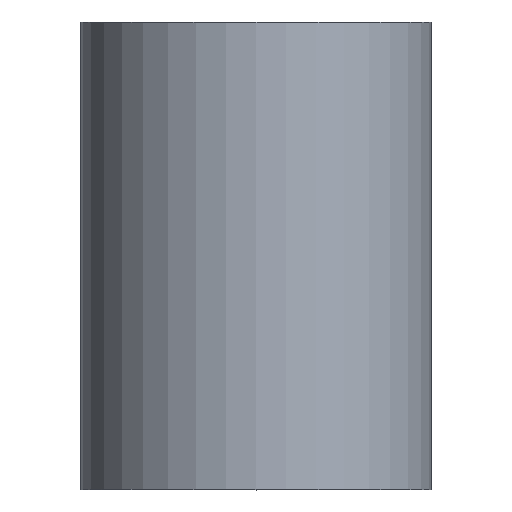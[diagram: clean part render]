
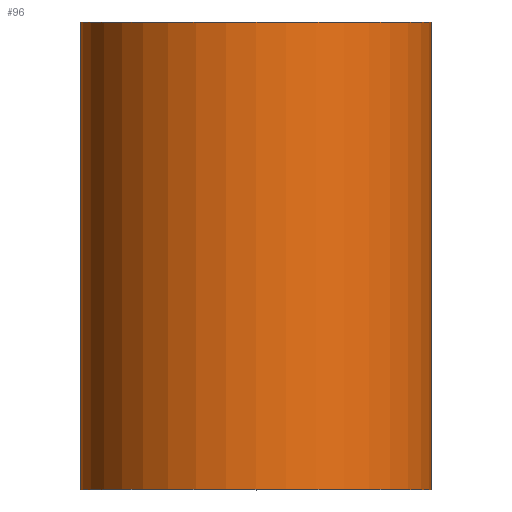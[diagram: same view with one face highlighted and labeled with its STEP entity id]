
A CAD part, top view. The second image highlights one B-rep face of the part: STEP entity #96.
In plain terms, the highlighted cylindrical face has radius 3 mm (diameter 6 mm), a partial arc.
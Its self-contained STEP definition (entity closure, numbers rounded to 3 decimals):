
#2 = LINE ( 'NONE', #107, #35 ) ;
#5 = DIRECTION ( 'NONE',  ( 0., 1., 0. ) ) ;
#8 = DIRECTION ( 'NONE',  ( 0., 1., 0. ) ) ;
#9 = DIRECTION ( 'NONE',  ( 0., 1., 0. ) ) ;
#19 = VERTEX_POINT ( 'NONE', #100 ) ;
#26 = DIRECTION ( 'NONE',  ( 0., 1., 0. ) ) ;
#28 = DIRECTION ( 'NONE',  ( -1., 0., 0. ) ) ;
#35 = VECTOR ( 'NONE', #26, 1000. ) ;
#41 = VECTOR ( 'NONE', #160, 1000. ) ;
#43 = EDGE_CURVE ( 'NONE', #296, #19, #2, .T. ) ;
#51 = CIRCLE ( 'NONE', #141, 3. ) ;
#55 = CARTESIAN_POINT ( 'NONE',  ( 3., 0., 0. ) ) ;
#62 = ORIENTED_EDGE ( 'NONE', *, *, #295, .F. ) ;
#76 = ORIENTED_EDGE ( 'NONE', *, *, #143, .F. ) ;
#83 = CARTESIAN_POINT ( 'NONE',  ( -3., 0., 0. ) ) ;
#85 = FACE_OUTER_BOUND ( 'NONE', #204, .T. ) ;
#96 = ADVANCED_FACE ( 'NONE', ( #85 ), #299, .T. ) ;
#99 = LINE ( 'NONE', #187, #41 ) ;
#100 = CARTESIAN_POINT ( 'NONE',  ( 3., 8., 0. ) ) ;
#102 = EDGE_CURVE ( 'NONE', #127, #296, #103, .T. ) ;
#103 = CIRCLE ( 'NONE', #270, 3. ) ;
#107 = CARTESIAN_POINT ( 'NONE',  ( 3., 0., 0. ) ) ;
#118 = ORIENTED_EDGE ( 'NONE', *, *, #43, .T. ) ;
#127 = VERTEX_POINT ( 'NONE', #83 ) ;
#133 = CARTESIAN_POINT ( 'NONE',  ( -3., 8., 0. ) ) ;
#141 = AXIS2_PLACEMENT_3D ( 'NONE', #201, #9, #261 ) ;
#143 = EDGE_CURVE ( 'NONE', #183, #19, #51, .T. ) ;
#153 = CARTESIAN_POINT ( 'NONE',  ( 0., 0., 0. ) ) ;
#160 = DIRECTION ( 'NONE',  ( 0., 1., 0. ) ) ;
#183 = VERTEX_POINT ( 'NONE', #133 ) ;
#187 = CARTESIAN_POINT ( 'NONE',  ( -3., 0., 0. ) ) ;
#193 = ORIENTED_EDGE ( 'NONE', *, *, #102, .T. ) ;
#201 = CARTESIAN_POINT ( 'NONE',  ( 0., 8., 0. ) ) ;
#204 = EDGE_LOOP ( 'NONE', ( #193, #118, #76, #62 ) ) ;
#223 = CARTESIAN_POINT ( 'NONE',  ( 0., 0., 0. ) ) ;
#250 = AXIS2_PLACEMENT_3D ( 'NONE', #223, #5, #283 ) ;
#261 = DIRECTION ( 'NONE',  ( -1., 0., 0. ) ) ;
#270 = AXIS2_PLACEMENT_3D ( 'NONE', #153, #8, #28 ) ;
#283 = DIRECTION ( 'NONE',  ( -1., 0., 0. ) ) ;
#295 = EDGE_CURVE ( 'NONE', #127, #183, #99, .T. ) ;
#296 = VERTEX_POINT ( 'NONE', #55 ) ;
#299 = CYLINDRICAL_SURFACE ( 'NONE', #250, 3. ) ;
